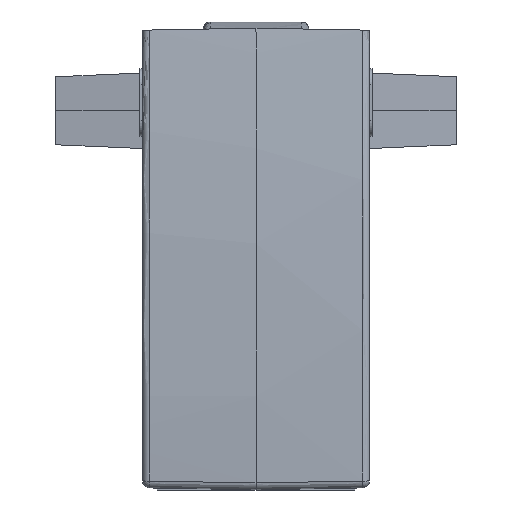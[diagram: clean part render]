
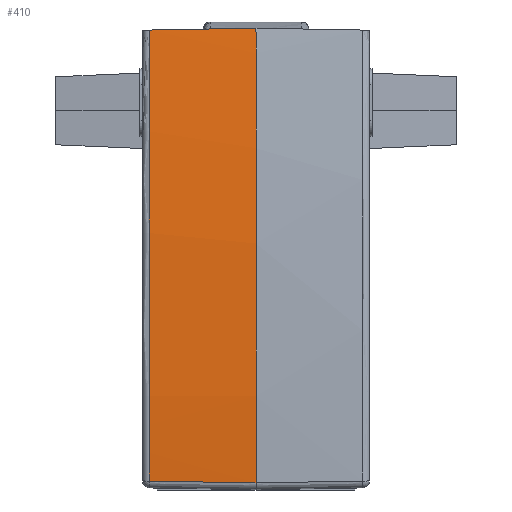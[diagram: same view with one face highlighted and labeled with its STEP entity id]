
A CAD part, left-side view. The second image highlights one B-rep face of the part: STEP entity #410.
In plain terms, the highlighted conical face has half-angle 1.263 degrees and reference radius 377.103 mm.
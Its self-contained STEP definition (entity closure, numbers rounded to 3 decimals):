
#63=CONICAL_SURFACE('',#3807,377.103,1.263);
#213=B_SPLINE_CURVE_WITH_KNOTS('',3,(#5629,#5630,#5631,#5632),
 .UNSPECIFIED.,.F.,.F.,(4,4),(0.,1.),.UNSPECIFIED.);
#215=B_SPLINE_CURVE_WITH_KNOTS('',3,(#5655,#5656,#5657,#5658),
 .UNSPECIFIED.,.F.,.F.,(4,4),(0.,1.),.UNSPECIFIED.);
#227=B_SPLINE_CURVE_WITH_KNOTS('',3,(#5722,#5723,#5724,#5725),
 .UNSPECIFIED.,.F.,.F.,(4,4),(0.,1.),.UNSPECIFIED.);
#228=B_SPLINE_CURVE_WITH_KNOTS('',3,(#5727,#5728,#5729,#5730),
 .UNSPECIFIED.,.F.,.F.,(4,4),(0.,1.),.UNSPECIFIED.);
#229=B_SPLINE_CURVE_WITH_KNOTS('',3,(#5732,#5733,#5734,#5735),
 .UNSPECIFIED.,.F.,.F.,(4,4),(0.,1.),.UNSPECIFIED.);
#230=B_SPLINE_CURVE_WITH_KNOTS('',3,(#5737,#5738,#5739,#5740),
 .UNSPECIFIED.,.F.,.F.,(4,4),(0.,1.),.UNSPECIFIED.);
#231=B_SPLINE_CURVE_WITH_KNOTS('',3,(#5742,#5743,#5744,#5745),
 .UNSPECIFIED.,.F.,.F.,(4,4),(0.,1.),.UNSPECIFIED.);
#410=ADVANCED_FACE('',(#708),#63,.T.);
#708=FACE_OUTER_BOUND('',#908,.T.);
#908=EDGE_LOOP('',(#1554,#1555,#1556,#1557,#1558,#1559,#1560,#1561));
#1079=CIRCLE('',#3800,376.771);
#1554=ORIENTED_EDGE('',*,*,#2831,.T.);
#1555=ORIENTED_EDGE('',*,*,#2813,.F.);
#1556=ORIENTED_EDGE('',*,*,#2809,.F.);
#1557=ORIENTED_EDGE('',*,*,#2808,.F.);
#1558=ORIENTED_EDGE('',*,*,#2832,.T.);
#1559=ORIENTED_EDGE('',*,*,#2833,.T.);
#1560=ORIENTED_EDGE('',*,*,#2834,.T.);
#1561=ORIENTED_EDGE('',*,*,#2835,.T.);
#2360=VERTEX_POINT('',#5514);
#2380=VERTEX_POINT('',#5628);
#2381=VERTEX_POINT('',#5633);
#2383=VERTEX_POINT('',#5659);
#2393=VERTEX_POINT('',#5726);
#2394=VERTEX_POINT('',#5731);
#2395=VERTEX_POINT('',#5736);
#2396=VERTEX_POINT('',#5741);
#2808=EDGE_CURVE('',#2360,#2380,#1079,.T.);
#2809=EDGE_CURVE('',#2380,#2381,#213,.T.);
#2813=EDGE_CURVE('',#2381,#2383,#215,.T.);
#2831=EDGE_CURVE('',#2393,#2383,#227,.T.);
#2832=EDGE_CURVE('',#2360,#2394,#228,.T.);
#2833=EDGE_CURVE('',#2394,#2395,#229,.T.);
#2834=EDGE_CURVE('',#2395,#2396,#230,.T.);
#2835=EDGE_CURVE('',#2396,#2393,#231,.T.);
#3800=AXIS2_PLACEMENT_3D('',#5627,#4302,#4303);
#3807=AXIS2_PLACEMENT_3D('',#5746,#4323,#4324);
#4302=DIRECTION('',(0.,1.,0.));
#4303=DIRECTION('',(-0.999,0.,-0.035));
#4323=DIRECTION('',(0.,-1.,0.));
#4324=DIRECTION('',(0.,0.,-1.));
#5514=CARTESIAN_POINT('',(-23.041,14.982,-23.933));
#5627=CARTESIAN_POINT('',(353.496,14.982,-10.653));
#5628=CARTESIAN_POINT('',(-23.273,14.982,-12.));
#5629=CARTESIAN_POINT('',(-23.273,14.982,-12.));
#5630=CARTESIAN_POINT('',(-23.334,14.982,5.217));
#5631=CARTESIAN_POINT('',(-22.214,14.982,22.438));
#5632=CARTESIAN_POINT('',(-19.922,14.982,39.501));
#5633=CARTESIAN_POINT('',(-19.922,14.982,39.501));
#5655=CARTESIAN_POINT('',(-19.922,14.982,39.501));
#5656=CARTESIAN_POINT('',(-20.021,9.988,39.588));
#5657=CARTESIAN_POINT('',(-20.121,4.994,39.676));
#5658=CARTESIAN_POINT('',(-20.22,0.,39.763));
#5659=CARTESIAN_POINT('',(-20.22,0.,39.763));
#5722=CARTESIAN_POINT('',(-20.452,0.,38.009));
#5723=CARTESIAN_POINT('',(-20.376,0.,38.594));
#5724=CARTESIAN_POINT('',(-20.299,0.,39.178));
#5725=CARTESIAN_POINT('',(-20.22,0.,39.763));
#5726=CARTESIAN_POINT('',(-20.452,0.,38.009));
#5727=CARTESIAN_POINT('',(-23.041,14.982,-23.933));
#5728=CARTESIAN_POINT('',(-23.23,6.175,-24.087));
#5729=CARTESIAN_POINT('',(-23.337,1.181,-24.173));
#5730=CARTESIAN_POINT('',(-23.362,0.,-24.192));
#5731=CARTESIAN_POINT('',(-23.364,0.,-24.192));
#5732=CARTESIAN_POINT('',(-23.362,0.,-24.192));
#5733=CARTESIAN_POINT('',(-23.508,0.,-20.13));
#5734=CARTESIAN_POINT('',(-23.588,0.,-16.065));
#5735=CARTESIAN_POINT('',(-23.603,0.,-12.));
#5736=CARTESIAN_POINT('',(-23.607,0.,-12.));
#5737=CARTESIAN_POINT('',(-23.603,0.,-12.));
#5738=CARTESIAN_POINT('',(-23.661,0.,4.121));
#5739=CARTESIAN_POINT('',(-22.683,0.,20.247));
#5740=CARTESIAN_POINT('',(-20.678,0.,36.243));
#5741=CARTESIAN_POINT('',(-20.678,0.,36.243));
#5742=CARTESIAN_POINT('',(-20.678,0.,36.243));
#5743=CARTESIAN_POINT('',(-20.604,0.,36.832));
#5744=CARTESIAN_POINT('',(-20.529,0.,37.421));
#5745=CARTESIAN_POINT('',(-20.452,0.,38.009));
#5746=CARTESIAN_POINT('',(353.496,-0.09,-10.653));
